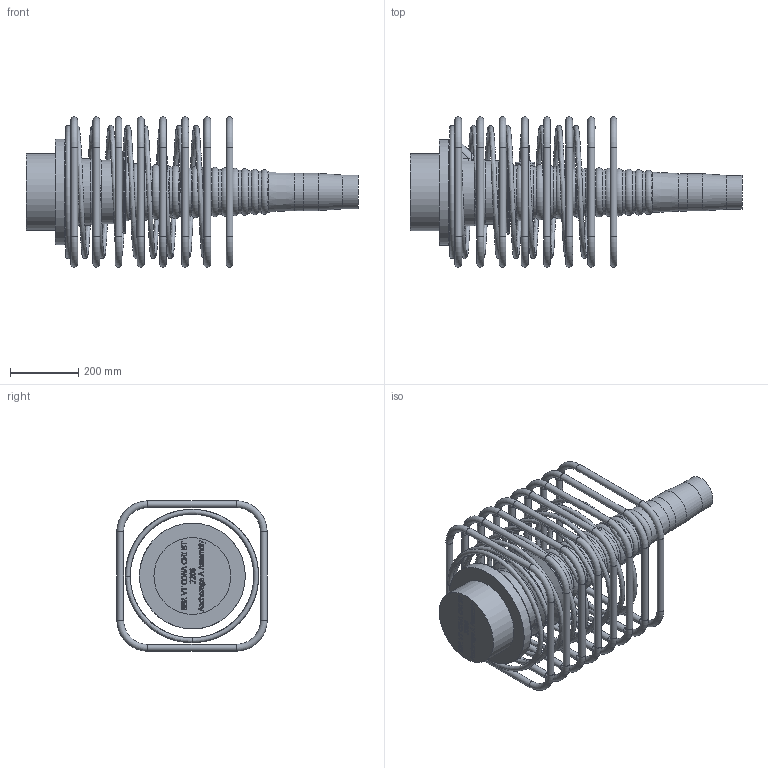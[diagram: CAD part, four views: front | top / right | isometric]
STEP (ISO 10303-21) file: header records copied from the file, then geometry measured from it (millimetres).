
FILE_DESCRIPTION(/* description */ (''),/* implementation_level */ '2;1');
FILE_NAME(/* name */ 'Z:\04 Publications\05 Give-out\BBR\6_3D_Models\BBR VT CONA CMI\BBR VT CONA CMI BT\02206\BBR VT CONA CMI BT 2206_Anchorage A Assembly_CS-34,28.stp',/* time_stamp */ '2017-05-05T09:39:25+02:00',/* author */ ('IP'),/* organization */ (''),/* preprocessor_version */ 'ST-DEVELOPER v16.1',/* originating_system */ 'Autodesk Inventor 2016',/* authorisation */ '');
FILE_SCHEMA (('AUTOMOTIVE_DESIGN { 1 0 10303 214 3 1 1 }'));
Length unit declared in the file: millimetre
Products named in the file (1): BBR VT CONA CMI BT 2206_Anchorage A Assembly_CS-34,28
Bounding box: 972.23 x 440 x 440 mm (x, y, z)
Volume: 26181362.3 mm3; surface area: 1934789.2 mm2
Topology: 10 solids, 10 shells, 796 faces, 2050 edges, 1314 vertices
Faces by surface type: plane 321, bspline 313, torus 92, cylinder 49, cone 19, sphere 2
Full cylindrical faces by diameter (mm): 20 x32, 34 x1, 57 x1, 99 x1, 109 x1, 187 x1, 225 x1, 243.942 x1, 310 x1
Entity records: 30340 total; most frequent: CARTESIAN_POINT 12828, ORIENTED_EDGE 3800, DIRECTION 2416, EDGE_CURVE 1900, VERTEX_POINT 1306, LINE 1066, VECTOR 1066, EDGE_LOOP 996
